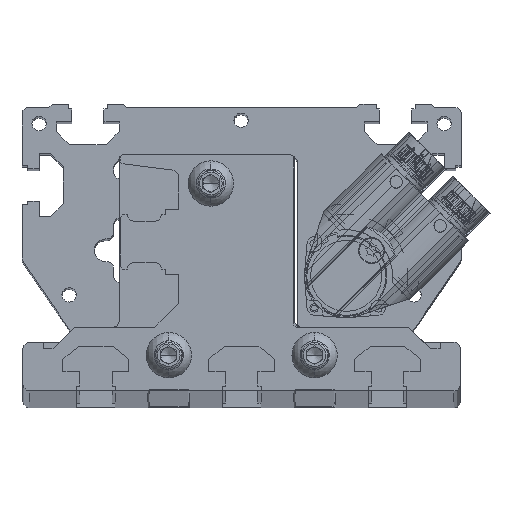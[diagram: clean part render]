
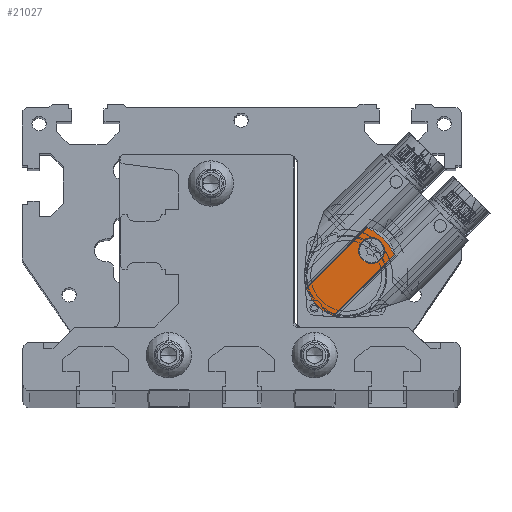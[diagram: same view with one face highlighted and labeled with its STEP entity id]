
A CAD part, top view. The second image highlights one B-rep face of the part: STEP entity #21027.
In plain terms, the highlighted planar face has unit normal (0, 0, 1).
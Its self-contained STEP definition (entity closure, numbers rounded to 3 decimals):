
#20 = EDGE_LOOP ( 'NONE', ( #5824, #5825 ) ) ;
#21 = EDGE_LOOP ( 'NONE', ( #5826, #5827, #5828, #5829 ) ) ;
#1350 = VERTEX_POINT ( 'NONE', #15976 ) ;
#1568 = AXIS2_PLACEMENT_3D ( 'NONE', #3313, #3314, #3315 ) ;
#1569 = AXIS2_PLACEMENT_3D ( 'NONE', #3316, #3317, #3318 ) ;
#2676 = CIRCLE ( 'NONE', #17116, 4. ) ;
#2980 = LINE ( 'NONE', #19885, #2981 ) ;
#2981 = VECTOR ( 'NONE', #19886, 1000. ) ;
#3313 = CARTESIAN_POINT ( 'NONE',  ( 0., 0., 18.8 ) ) ;
#3314 = DIRECTION ( 'NONE',  ( 0., 0., -1. ) ) ;
#3315 = DIRECTION ( 'NONE',  ( 0.707, -0.707, 0. ) ) ;
#3316 = CARTESIAN_POINT ( 'NONE',  ( 7.778, 7.778, 18.8 ) ) ;
#3317 = DIRECTION ( 'NONE',  ( 0., 0., -1. ) ) ;
#3318 = DIRECTION ( 'NONE',  ( -0.707, -0.707, 0. ) ) ;
#5570 = EDGE_CURVE ( 'NONE', #25608, #1350, #35847, .T. ) ;
#5571 = EDGE_CURVE ( 'NONE', #15830, #15805, #35851, .T. ) ;
#5824 = ORIENTED_EDGE ( 'NONE', *, *, #32823, .T. ) ;
#5825 = ORIENTED_EDGE ( 'NONE', *, *, #5571, .T. ) ;
#5826 = ORIENTED_EDGE ( 'NONE', *, *, #5570, .F. ) ;
#5827 = ORIENTED_EDGE ( 'NONE', *, *, #43016, .T. ) ;
#5828 = ORIENTED_EDGE ( 'NONE', *, *, #43018, .T. ) ;
#5829 = ORIENTED_EDGE ( 'NONE', *, *, #16233, .T. ) ;
#8457 = CARTESIAN_POINT ( 'NONE',  ( 6.567, 14.874, 18.8 ) ) ;
#8665 = CARTESIAN_POINT ( 'NONE',  ( 4.95, 4.95, 18.8 ) ) ;
#8690 = CARTESIAN_POINT ( 'NONE',  ( 10.607, 10.607, 18.8 ) ) ;
#8870 = CARTESIAN_POINT ( 'NONE',  ( 5.428, 13.735, 18.8 ) ) ;
#8871 = DIRECTION ( 'NONE',  ( -0.707, -0.707, 0. ) ) ;
#10375 = PLANE ( 'NONE',  #12728 ) ;
#10376 = CARTESIAN_POINT ( 'NONE',  ( 9.581, 9.581, 18.8 ) ) ;
#10377 = DIRECTION ( 'NONE',  ( 0., 0., 1. ) ) ;
#10378 = DIRECTION ( 'NONE',  ( 0.707, -0.707, 0. ) ) ;
#12728 = AXIS2_PLACEMENT_3D ( 'NONE', #10376, #10377, #10378 ) ;
#15598 = VERTEX_POINT ( 'NONE', #8457 ) ;
#15805 = VERTEX_POINT ( 'NONE', #8665 ) ;
#15830 = VERTEX_POINT ( 'NONE', #8690 ) ;
#15976 = CARTESIAN_POINT ( 'NONE',  ( -12.275, -3.968, 18.8 ) ) ;
#16233 = EDGE_CURVE ( 'NONE', #15598, #1350, #24651, .T. ) ;
#17116 = AXIS2_PLACEMENT_3D ( 'NONE', #41504, #41505, #41506 ) ;
#19885 = CARTESIAN_POINT ( 'NONE',  ( 13.735, 5.428, 18.8 ) ) ;
#19886 = DIRECTION ( 'NONE',  ( 0.707, 0.707, 0. ) ) ;
#19891 = CARTESIAN_POINT ( 'NONE',  ( 14.874, 6.567, 18.8 ) ) ;
#19892 = CARTESIAN_POINT ( 'NONE',  ( 14.421, 7.463, 18.8 ) ) ;
#19893 = CARTESIAN_POINT ( 'NONE',  ( 13.902, 8.311, 18.8 ) ) ;
#19894 = CARTESIAN_POINT ( 'NONE',  ( 12.741, 9.914, 18.8 ) ) ;
#19895 = CARTESIAN_POINT ( 'NONE',  ( 12.098, 10.67, 18.8 ) ) ;
#19896 = CARTESIAN_POINT ( 'NONE',  ( 11.037, 11.732, 18.8 ) ) ;
#19897 = CARTESIAN_POINT ( 'NONE',  ( 10.668, 12.073, 18.8 ) ) ;
#19898 = CARTESIAN_POINT ( 'NONE',  ( 9.909, 12.72, 18.8 ) ) ;
#19899 = CARTESIAN_POINT ( 'NONE',  ( 9.519, 13.027, 18.8 ) ) ;
#19900 = CARTESIAN_POINT ( 'NONE',  ( 8.312, 13.902, 18.8 ) ) ;
#19901 = CARTESIAN_POINT ( 'NONE',  ( 7.463, 14.421, 18.8 ) ) ;
#19902 = CARTESIAN_POINT ( 'NONE',  ( 6.567, 14.874, 18.8 ) ) ;
#21027 = ADVANCED_FACE ( 'NONE', ( #25235, #25236 ), #10375, .T. ) ;
#24651 = LINE ( 'NONE', #8870, #24652 ) ;
#24652 = VECTOR ( 'NONE', #8871, 1000. ) ;
#25235 = FACE_BOUND ( 'NONE', #20, .T. ) ;
#25236 = FACE_OUTER_BOUND ( 'NONE', #21, .T. ) ;
#25608 = VERTEX_POINT ( 'NONE', #31922 ) ;
#25730 = VERTEX_POINT ( 'NONE', #32016 ) ;
#31922 = CARTESIAN_POINT ( 'NONE',  ( -3.968, -12.275, 18.8 ) ) ;
#32016 = CARTESIAN_POINT ( 'NONE',  ( 14.874, 6.567, 18.8 ) ) ;
#32572 = B_SPLINE_CURVE_WITH_KNOTS ( 'NONE', 3,
 ( #19891, #19892, #19893, #19894, #19895, #19896, #19897, #19898, #19899, #19900, #19901, #19902 ),
 .UNSPECIFIED., .F., .F.,
 ( 4, 2, 2, 2, 2, 4 ),
 ( 0., 0.003, 0.006, 0.007, 0.009, 0.012 ),
 .UNSPECIFIED. ) ;
#32823 = EDGE_CURVE ( 'NONE', #15805, #15830, #2676, .T. ) ;
#35847 = CIRCLE ( 'NONE', #1568, 12.9 ) ;
#35851 = CIRCLE ( 'NONE', #1569, 4. ) ;
#41504 = CARTESIAN_POINT ( 'NONE',  ( 7.778, 7.778, 18.8 ) ) ;
#41505 = DIRECTION ( 'NONE',  ( 0., 0., -1. ) ) ;
#41506 = DIRECTION ( 'NONE',  ( -0.707, -0.707, 0. ) ) ;
#43016 = EDGE_CURVE ( 'NONE', #25608, #25730, #2980, .T. ) ;
#43018 = EDGE_CURVE ( 'NONE', #25730, #15598, #32572, .T. ) ;
